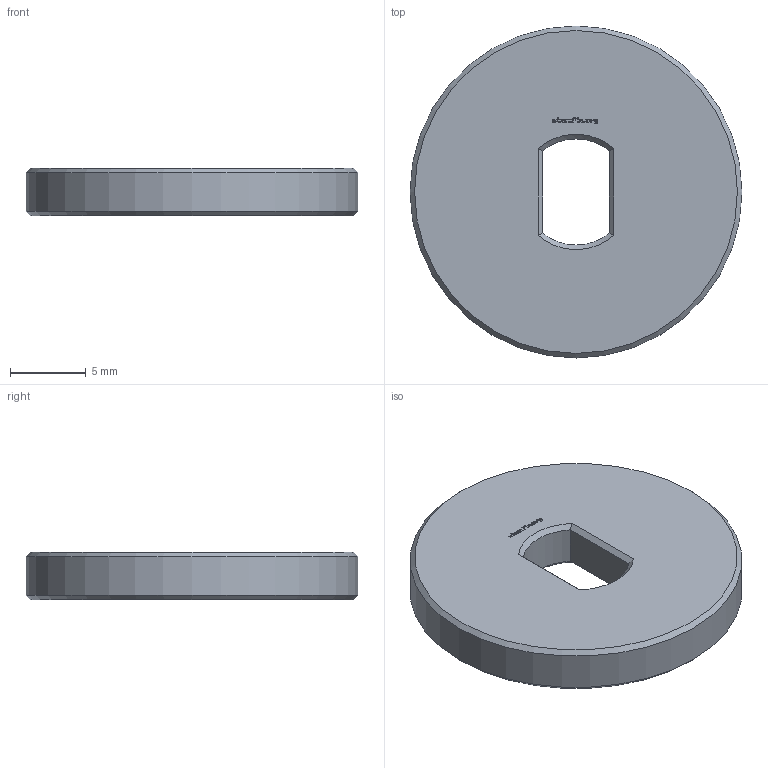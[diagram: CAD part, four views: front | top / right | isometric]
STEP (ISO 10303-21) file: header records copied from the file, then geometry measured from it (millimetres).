
FILE_DESCRIPTION(/* description */ (''),/* implementation_level */ '2;1');
FILE_NAME(/* name */ '/Users/paulokiefe/Desktop/STEMFIE/Fasteners/Washers/Fixed/Washer WSR FXD BU0.25x1.75 - SPN-WSR-0004 v1.step',/* time_stamp */ '2020-09-27T23:12:06+02:00',/* author */ (''),/* organization */ (''),/* preprocessor_version */ 'ST-DEVELOPER v18.1',/* originating_system */ 'Autodesk Translation Framework v9.3.0.1241',/* authorisation */ '');
FILE_SCHEMA (('AUTOMOTIVE_DESIGN { 1 0 10303 214 3 1 1 }'));
Length unit declared in the file: millimetre
Products named in the file (1): Washer WSR FXD BU0.25x1.75 - SPN-WSR-0004
Bounding box: 21.88 x 21.88 x 3.12 mm (x, y, z)
Volume: 1076.9 mm3; surface area: 942.2 mm2
Topology: 1 solids, 1 shells, 261 faces, 731 edges, 484 vertices
Faces by surface type: plane 252, cone 6, cylinder 3
Full cylindrical faces by diameter (mm): 21.875 x1
Entity records: 8262 total; most frequent: CARTESIAN_POINT 1501, ORIENTED_EDGE 1462, DIRECTION 1259, EDGE_CURVE 731, LINE 711, VECTOR 711, VERTEX_POINT 484, EDGE_LOOP 275
